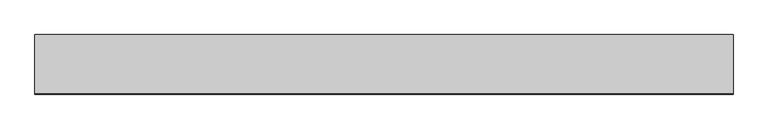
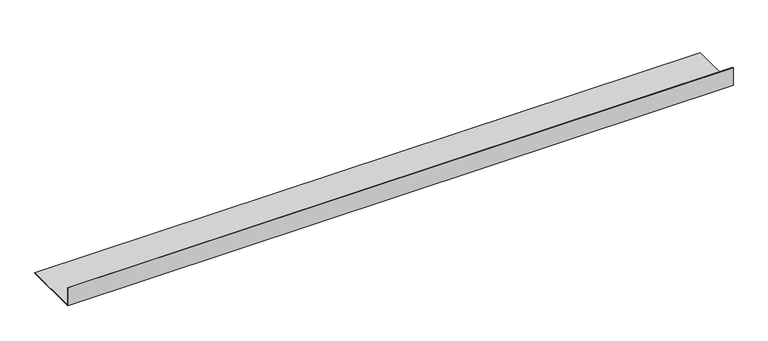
"""IFC4 building model written with IfcOpenShell, lengths in millimetres: proxy geometry, Оцинкованный уголок : 150х50х0.8."""

from ifc_helpers import new_model, si_unit, frame, origin, place, context, project, spatial, polyline, outline, extrude, source, transform, mapped, element, save


def generic_models_780b6e42(model_context):
    return source(origin(), model_context, "Body", "SweptSolid", [
        extrude(outline(polyline([(0.0, 50.0), (0.8, 50.0), (0.8, 0.8), (150.0, 0.8), (150.0, 0.0), (0.0, 0.0), (0.0, 50.0)])), frame((0.0, 0.0, 0.0), z_axis=(1.0, 0.0, 0.0), x_axis=(0.0, 1.0, 0.0)), (0.0, 0.0, 1.0), 1756.0),
    ])


if __name__ == "__main__":
    model = new_model("IFC4")
    model_context = context("Model", 3, world=origin())
    ifc_project = project(units=[si_unit("LENGTHUNIT", "METRE", prefix="MILLI")], contexts=[model_context])
    site = spatial("IfcSite", under=ifc_project)
    building = spatial("IfcBuilding", under=site)
    placement = place(None, origin())
    generic_models_shape = generic_models_780b6e42(model_context)
    element("IfcBuildingElementProxy", 1, Name="Оцинкованный уголок : 150х50х0.8", ObjectType="Оцинкованный уголок : 150х50х0.8", at=placement, inside=building, context=model_context, shape_type="MappedRepresentation", body=[
        mapped(generic_models_shape, transform((0.0, 0.0, 0.0), x_axis=(1.0, 0.0, 0.0), y_axis=(0.0, 1.0, 0.0), z_axis=(0.0, 0.0, 1.0))),
    ])
    save(model, "model.ifc")
